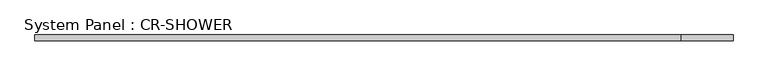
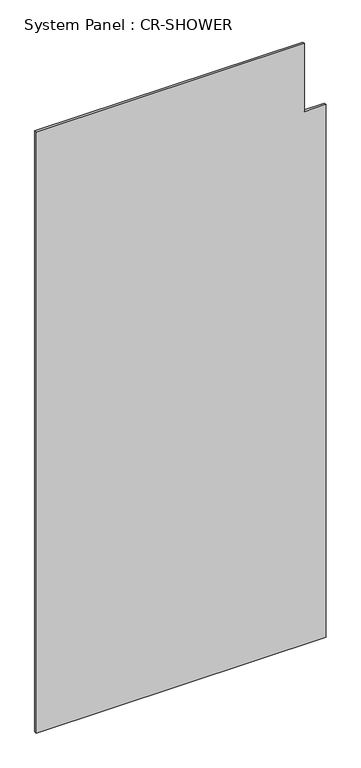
"""IFC4 building model written with IfcOpenShell, lengths in millimetres: plate geometry, System Panel : CR-SHOWER."""

from ifc_helpers import new_model, si_unit, frame, origin, place, context, project, spatial, polyline, outline, extrude, source, transform, mapped, element, save


def system_panel_cr_shower_f60a3f7b(model_context):
    return source(origin(), model_context, "Body", "SweptSolid", [
        extrude(outline(polyline([(0.0, -765.0), (0.0, 765.0), (2970.0, 765.0), (2970.0, 650.0), (3350.0, 650.0), (3350.0, -765.0), (0.0, -765.0)])), frame((0.0, -0.05, 0.0), z_axis=(0.0, 1.0, 0.0), x_axis=(0.0, 0.0, 1.0)), (0.0, 0.0, 1.0), 12.5),
    ])


if __name__ == "__main__":
    model = new_model("IFC4")
    model_context = context("Model", 3, world=origin())
    ifc_project = project(units=[si_unit("LENGTHUNIT", "METRE", prefix="MILLI")], contexts=[model_context])
    site = spatial("IfcSite", under=ifc_project)
    building = spatial("IfcBuilding", under=site)
    placement = place(None, origin())
    system_panel_cr_shower_shape = system_panel_cr_shower_f60a3f7b(model_context)
    element("IfcPlate", 1, ObjectType="System Panel : CR-SHOWER", at=placement, inside=building, context=model_context, shape_type="MappedRepresentation", body=[
        mapped(system_panel_cr_shower_shape, transform((0.0, 0.0, 0.0), x_axis=(1.0, 0.0, 0.0), y_axis=(0.0, 1.0, 0.0), z_axis=(0.0, 0.0, 1.0))),
    ])
    save(model, "model.ifc")
